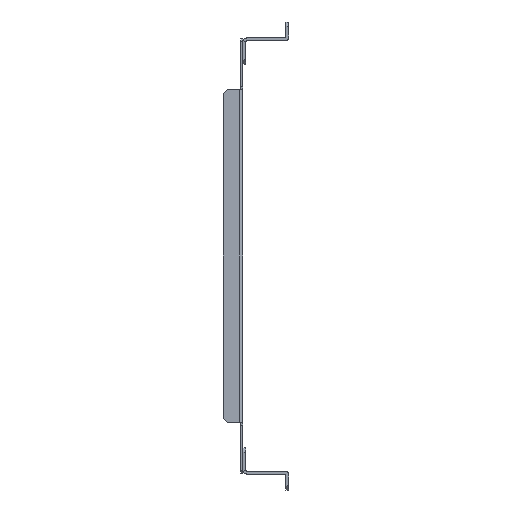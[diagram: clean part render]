
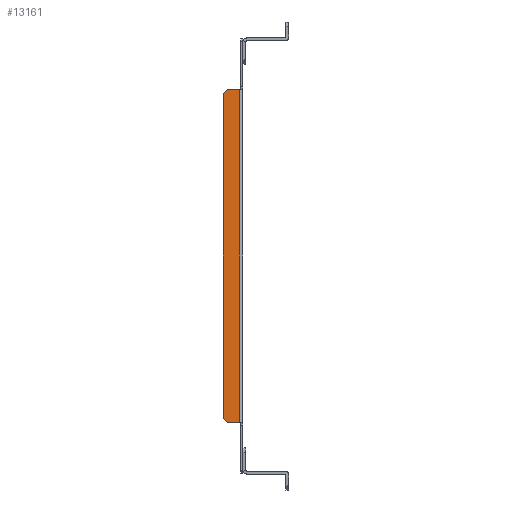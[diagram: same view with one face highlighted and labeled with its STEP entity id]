
A CAD part, left-side view. The second image highlights one B-rep face of the part: STEP entity #13161.
In plain terms, the highlighted planar face has unit normal (-1, 0, 0).
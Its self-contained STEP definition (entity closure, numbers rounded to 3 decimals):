
#11481=CARTESIAN_POINT(' ',(-249.5,9.,114.5));
#11482=VERTEX_POINT(' ',#11481);
#11496=CARTESIAN_POINT(' ',(-249.5,9.,114.5));
#11501=DIRECTION(' ',(0.,-1.,0.));
#11506=VECTOR(' ',#11501,1.);
#11511=LINE('',#11496,#11506);
#11516=CARTESIAN_POINT(' ',(-249.5,0.6,114.5));
#11517=VERTEX_POINT(' ',#11516);
#11521=EDGE_CURVE(' ',#11482,#11517,#11511,.T.);
#11656=CARTESIAN_POINT(' ',(-249.5,0.6,114.5));
#11661=DIRECTION(' ',(0.,0.,-1.));
#11666=VECTOR(' ',#11661,1.);
#11671=LINE('',#11656,#11666);
#11676=CARTESIAN_POINT(' ',(-249.5,0.6,-114.5));
#11677=VERTEX_POINT(' ',#11676);
#11681=EDGE_CURVE(' ',#11517,#11677,#11671,.T.);
#11776=CARTESIAN_POINT(' ',(-249.5,9.,-114.5));
#11781=DIRECTION(' ',(0.,-1.,0.));
#11786=VECTOR(' ',#11781,1.);
#11791=LINE('',#11776,#11786);
#11796=CARTESIAN_POINT(' ',(-249.5,9.,-114.5));
#11797=VERTEX_POINT(' ',#11796);
#11801=EDGE_CURVE(' ',#11797,#11677,#11791,.T.);
#12951=CARTESIAN_POINT(' ',(-249.5,9.,114.5));
#12956=DIRECTION(' ',(0.,0.707,-0.707));
#12961=VECTOR(' ',#12956,1.);
#12966=LINE('',#12951,#12961);
#12971=CARTESIAN_POINT(' ',(-249.5,12.,111.5));
#12972=VERTEX_POINT(' ',#12971);
#12976=EDGE_CURVE(' ',#11482,#12972,#12966,.T.);
#13041=DIRECTION(' ',(-1.,-0.,0.));
#13046=CARTESIAN_POINT(' ',(-249.5,0.6,114.5));
#13051=DIRECTION(' ',(0.,1.,0.));
#13056=AXIS2_PLACEMENT_3D(' ',#13046,#13041,#13051);
#13061=PLANE('NONE',#13056);
#13066=CARTESIAN_POINT(' ',(-249.5,12.,111.5));
#13071=DIRECTION(' ',(0.,0.,-1.));
#13076=VECTOR(' ',#13071,1.);
#13081=LINE('',#13066,#13076);
#13086=CARTESIAN_POINT(' ',(-249.5,12.,-111.5));
#13087=VERTEX_POINT(' ',#13086);
#13091=EDGE_CURVE(' ',#12972,#13087,#13081,.T.);
#13096=ORIENTED_EDGE(' ',*,*,#13091,.T.);
#13101=CARTESIAN_POINT(' ',(-249.5,12.,-111.5));
#13106=DIRECTION(' ',(0.,-0.707,-0.707));
#13111=VECTOR(' ',#13106,1.);
#13116=LINE('',#13101,#13111);
#13121=EDGE_CURVE(' ',#13087,#11797,#13116,.T.);
#13126=ORIENTED_EDGE(' ',*,*,#13121,.T.);
#13131=ORIENTED_EDGE(' ',*,*,#11801,.T.);
#13136=ORIENTED_EDGE(' ',*,*,#11681,.F.);
#13141=ORIENTED_EDGE(' ',*,*,#11521,.F.);
#13146=ORIENTED_EDGE(' ',*,*,#12976,.T.);
#13151=EDGE_LOOP(' ',(#13096,#13126,#13131,#13136,#13141,#13146));
#13156=FACE_OUTER_BOUND(' ',#13151,.T.);
#13161=ADVANCED_FACE('NONE',(#13156),#13061,.T.);
